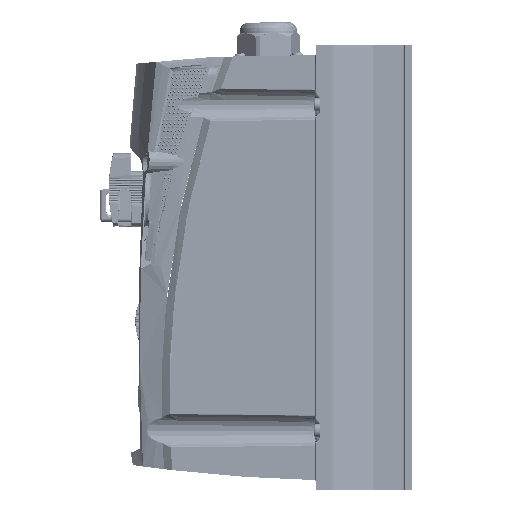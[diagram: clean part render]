
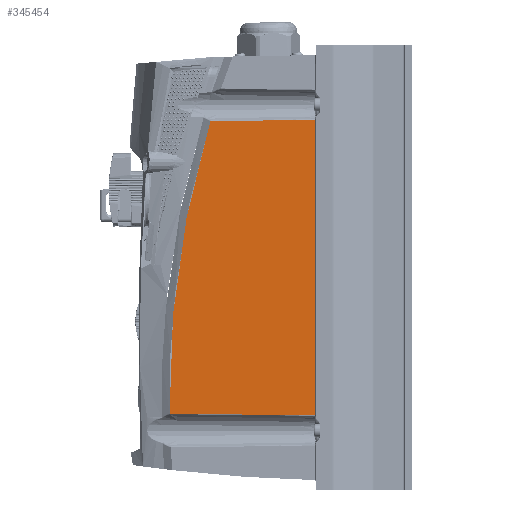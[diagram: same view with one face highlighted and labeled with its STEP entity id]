
A CAD part, left-side view. The second image highlights one B-rep face of the part: STEP entity #345454.
In plain terms, the highlighted planar face has unit normal (-1, 0.017, 0).
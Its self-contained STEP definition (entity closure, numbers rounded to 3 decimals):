
#345395=AXIS2_PLACEMENT_3D('Plane Axis2P3D',#345392,#345393,#345394) ;
#345392=CARTESIAN_POINT('Axis2P3D Location',(-70.501,-6.089,-116.)) ;
#345398=CARTESIAN_POINT('Control Point',(-69.454,53.915,76.451)) ;
#345399=CARTESIAN_POINT('Control Point',(-69.344,60.256,55.566)) ;
#345400=CARTESIAN_POINT('Control Point',(-69.253,65.449,34.332)) ;
#345401=CARTESIAN_POINT('Control Point',(-69.183,69.469,12.839)) ;
#345402=CARTESIAN_POINT('Control Point',(-69.113,73.481,-17.896)) ;
#345403=CARTESIAN_POINT('Control Point',(-69.085,75.089,-48.812)) ;
#345404=CARTESIAN_POINT('Control Point',(-69.081,75.353,-57.936)) ;
#345405=CARTESIAN_POINT('Control Point',(-69.08,75.407,-67.061)) ;
#345406=CARTESIAN_POINT('Control Point',(-69.082,75.252,-76.183)) ;
#345407=CARTESIAN_POINT('Vertex',(-69.454,53.915,76.451)) ;
#345409=CARTESIAN_POINT('Vertex',(-69.082,75.252,-76.183)) ;
#345413=CARTESIAN_POINT('Control Point',(-69.082,75.252,-76.183)) ;
#345414=CARTESIAN_POINT('Control Point',(-69.082,75.252,-76.19)) ;
#345415=CARTESIAN_POINT('Control Point',(-69.082,75.252,-76.197)) ;
#345416=CARTESIAN_POINT('Control Point',(-69.082,75.251,-76.204)) ;
#345417=CARTESIAN_POINT('Control Point',(-69.082,75.25,-76.211)) ;
#345418=CARTESIAN_POINT('Control Point',(-69.083,75.249,-76.218)) ;
#345419=CARTESIAN_POINT('Vertex',(-69.083,75.249,-76.218)) ;
#345423=CARTESIAN_POINT('Control Point',(-69.083,75.249,-76.218)) ;
#345424=CARTESIAN_POINT('Control Point',(-69.347,60.097,-76.381)) ;
#345425=CARTESIAN_POINT('Control Point',(-69.611,44.945,-76.548)) ;
#345426=CARTESIAN_POINT('Control Point',(-69.875,29.794,-76.719)) ;
#345427=CARTESIAN_POINT('Control Point',(-70.139,14.642,-76.894)) ;
#345428=CARTESIAN_POINT('Control Point',(-70.403,-0.51,-77.075)) ;
#345429=CARTESIAN_POINT('Vertex',(-70.403,-0.51,-77.075)) ;
#345432=CARTESIAN_POINT('Line Origine',(-70.403,-0.51,0.)) ;
#345436=CARTESIAN_POINT('Vertex',(-70.403,-0.51,77.075)) ;
#345440=CARTESIAN_POINT('Control Point',(-70.403,-0.51,77.075)) ;
#345441=CARTESIAN_POINT('Control Point',(-70.214,10.375,76.945)) ;
#345442=CARTESIAN_POINT('Control Point',(-70.024,21.26,76.818)) ;
#345443=CARTESIAN_POINT('Control Point',(-69.834,32.145,76.693)) ;
#345444=CARTESIAN_POINT('Control Point',(-69.644,43.03,76.571)) ;
#345445=CARTESIAN_POINT('Control Point',(-69.454,53.915,76.451)) ;
#345393=DIRECTION('Axis2P3D Direction',(-1.,0.017,0.)) ;
#345394=DIRECTION('Axis2P3D XDirection',(0.017,1.,0.)) ;
#345433=DIRECTION('Vector Direction',(0.,0.,1.)) ;
#345434=VECTOR('Line Direction',#345433,1.) ;
#345448=ORIENTED_EDGE('',*,*,#345411,.T.) ;
#345449=ORIENTED_EDGE('',*,*,#345421,.T.) ;
#345450=ORIENTED_EDGE('',*,*,#345431,.T.) ;
#345451=ORIENTED_EDGE('',*,*,#345438,.T.) ;
#345452=ORIENTED_EDGE('',*,*,#345446,.T.) ;
#345454=ADVANCED_FACE('NONE',(#345453),#345396,.T.) ;
#345397=B_SPLINE_CURVE_WITH_KNOTS('',5,(#345398,#345399,#345400,#345401,#345402,#345403,#345404,#345405,#345406),.UNSPECIFIED.,.F.,.U.,(6,3,6),(0.,154.357,218.877),.UNSPECIFIED.) ;
#345412=B_SPLINE_CURVE_WITH_KNOTS('',5,(#345413,#345414,#345415,#345416,#345417,#345418),.UNSPECIFIED.,.F.,.U.,(6,6),(0.,0.049),.UNSPECIFIED.) ;
#345422=B_SPLINE_CURVE_WITH_KNOTS('',5,(#345423,#345424,#345425,#345426,#345427,#345428),.UNSPECIFIED.,.F.,.U.,(6,6),(0.,107.163),.UNSPECIFIED.) ;
#345439=B_SPLINE_CURVE_WITH_KNOTS('',5,(#345440,#345441,#345442,#345443,#345444,#345445),.UNSPECIFIED.,.F.,.U.,(6,6),(0.,76.985),.UNSPECIFIED.) ;
#345411=EDGE_CURVE('',#345408,#345410,#345397,.T.) ;
#345421=EDGE_CURVE('',#345410,#345420,#345412,.T.) ;
#345431=EDGE_CURVE('',#345420,#345430,#345422,.T.) ;
#345438=EDGE_CURVE('',#345430,#345437,#345435,.T.) ;
#345446=EDGE_CURVE('',#345437,#345408,#345439,.T.) ;
#345447=EDGE_LOOP('',(#345448,#345449,#345450,#345451,#345452)) ;
#345453=FACE_OUTER_BOUND('',#345447,.T.) ;
#345435=LINE('Line',#345432,#345434) ;
#345396=PLANE('Plane',#345395) ;
#345408=VERTEX_POINT('',#345407) ;
#345410=VERTEX_POINT('',#345409) ;
#345420=VERTEX_POINT('',#345419) ;
#345430=VERTEX_POINT('',#345429) ;
#345437=VERTEX_POINT('',#345436) ;
